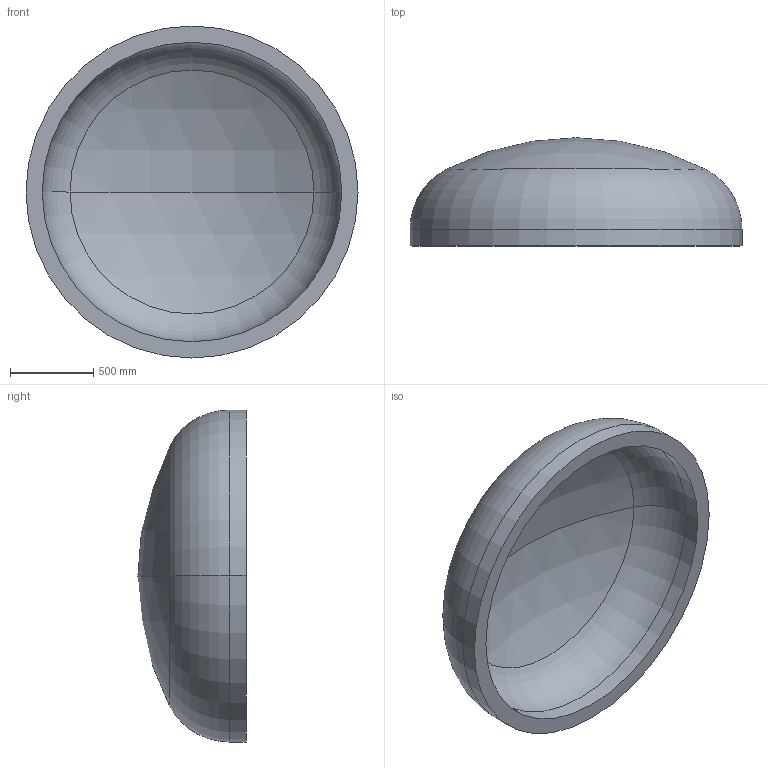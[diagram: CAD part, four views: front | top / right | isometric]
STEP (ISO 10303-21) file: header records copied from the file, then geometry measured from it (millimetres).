
FILE_DESCRIPTION (( 'STEP AP203' ), '1' );
FILE_NAME ('DIN 28013 Korbbogenform_-_Boden DIN 28013 - 2000 x 100 - I - s=98.step', '2016-07-01T14:09:00', ( '' ), ( '' ), 'SwSTEP 2.0', 'SolidWorks 2013', '' );
FILE_SCHEMA (( 'CONFIG_CONTROL_DESIGN' ));
Length unit declared in the file: millimetre
Products named in the file (1): DIN 28013 Korbbogenform_-_Boden DIN 28013 - 2000 x 100 - I - s=98
Bounding box: 2000 x 651.86 x 2000 mm (x, y, z)
Volume: 459451654.4 mm3; surface area: 9982256.7 mm2
Topology: 1 solids, 1 shells, 13 faces, 24 edges, 14 vertices
Faces by surface type: torus 4, cylinder 4, sphere 4, plane 1
Entity records: 407 total; most frequent: DIRECTION 72, CARTESIAN_POINT 52, ORIENTED_EDGE 48, AXIS2_PLACEMENT_3D 34, EDGE_CURVE 24, CIRCLE 20, EDGE_LOOP 14, VERTEX_POINT 14
